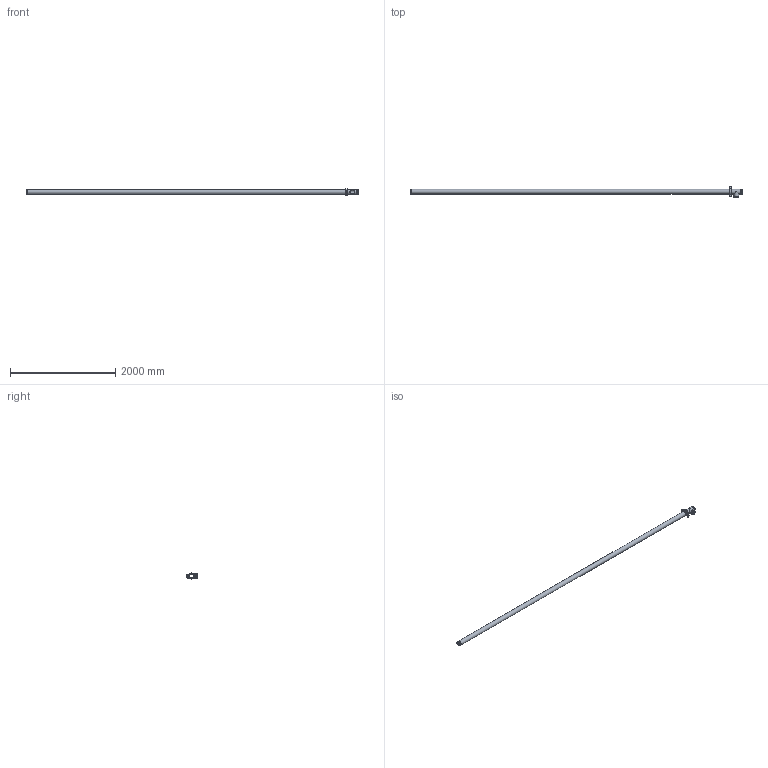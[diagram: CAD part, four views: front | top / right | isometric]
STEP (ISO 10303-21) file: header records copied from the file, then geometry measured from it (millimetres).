
FILE_DESCRIPTION(/* description */ ('VIC LONG RUN FITTING No R12 (OGS)','CAx-IF Rec.Pracs.---Representation and Presentation of Product Manufacturing Information (PMI)---4.0---2014-10-13'),/* implementation_level */ '2;1');
FILE_NAME(/* name */ 'C:\Users\Vjadhav\AppData\Roaming\Autodesk\ApplicationPlugins\Back Up\Victaulic_IPS_Long Run Fittings_No R12 (OGS)\Victaulic_IPS_Long Run Fittings_No R12 (OGS)_3 (80).stp',/* time_stamp */ '2020-10-06T18:48:55+05:00',/* author */ ('Vjadhav'),/* organization */ ('Victaulic'),/* preprocessor_version */ 'ST-DEVELOPER v17.2',/* originating_system */ 'Autodesk Inventor 2019',/* authorisation */ '');
FILE_SCHEMA (('AP242_MANAGED_MODEL_BASED_3D_ENGINEERING_MIM_LF { 1 0 10303 442 1 1 4 }'));
Length unit declared in the file: inch
Products named in the file (4): R12-03.0; 020-03.0; 107N-03.0; Pipe_R10-03.0
Assembly tree (3 placements, depth 2):
  R12-03.0
    020-03.0
    107N-03.0
    Pipe_R10-03.0
Bounding box: 6315.71 x 203.2 x 117.6 mm (x, y, z)
Volume: 9457977.3 mm3; surface area: 3416138.1 mm2
Topology: 3 solids, 3 shells, 154 faces, 401 edges, 272 vertices
Faces by surface type: plane 65, cylinder 61, bspline 18, cone 4, torus 4, sphere 2
Full cylindrical faces by diameter (mm): 12.7 x4, 22.225 x2, 76.2 x1, 77.927 x3, 84.938 x5, 88.9 x10
Entity records: 5695 total; most frequent: CARTESIAN_POINT 1466, DIRECTION 855, ORIENTED_EDGE 802, EDGE_CURVE 401, AXIS2_PLACEMENT_3D 339, VERTEX_POINT 272, EDGE_LOOP 185, LINE 177
